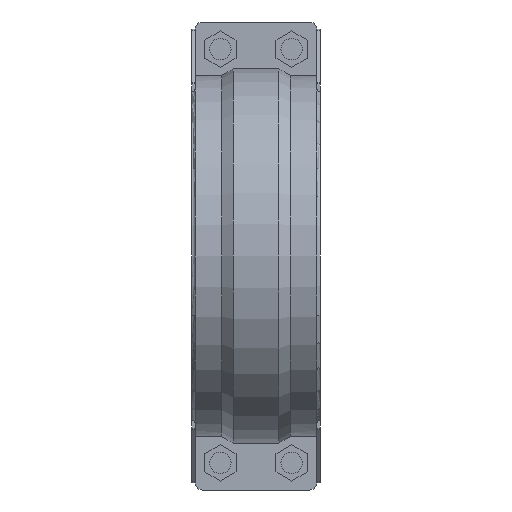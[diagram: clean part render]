
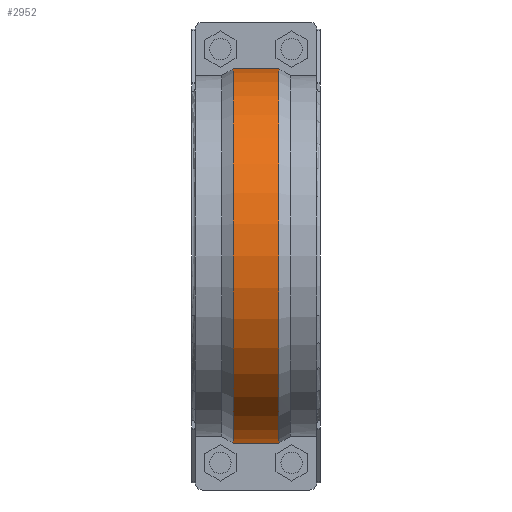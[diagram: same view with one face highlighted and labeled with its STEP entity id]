
A CAD part, front view. The second image highlights one B-rep face of the part: STEP entity #2952.
In plain terms, the highlighted cylindrical face has radius 166.521 mm (diameter 333.042 mm), a partial arc.
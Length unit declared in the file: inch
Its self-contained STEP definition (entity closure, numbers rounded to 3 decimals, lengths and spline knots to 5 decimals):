
#341=FACE_OUTER_BOUND('',#515,.T.);
#515=EDGE_LOOP('',(#2506,#2507,#2508,#2509));
#632=LINE('',#4413,#899);
#792=LINE('',#4917,#1059);
#899=VECTOR('',#3534,0.3937);
#1059=VECTOR('',#3972,0.3937);
#1121=CIRCLE('',#3119,6.55594);
#1155=CIRCLE('',#3218,6.55594);
#1269=VERTEX_POINT('',#4408);
#1270=VERTEX_POINT('',#4412);
#1315=VERTEX_POINT('',#4597);
#1414=VERTEX_POINT('',#4913);
#1571=EDGE_CURVE('',#1270,#1269,#632,.T.);
#1642=EDGE_CURVE('',#1315,#1269,#1121,.T.);
#1796=EDGE_CURVE('',#1315,#1414,#792,.T.);
#1803=EDGE_CURVE('',#1414,#1270,#1155,.T.);
#2506=ORIENTED_EDGE('',*,*,#1571,.T.);
#2507=ORIENTED_EDGE('',*,*,#1642,.F.);
#2508=ORIENTED_EDGE('',*,*,#1796,.T.);
#2509=ORIENTED_EDGE('',*,*,#1803,.T.);
#2648=CYLINDRICAL_SURFACE('',#3217,6.55594);
#2952=ADVANCED_FACE('',(#341),#2648,.T.);
#3119=AXIS2_PLACEMENT_3D('',#4601,#3669,#3670);
#3217=AXIS2_PLACEMENT_3D('',#4931,#3991,#3992);
#3218=AXIS2_PLACEMENT_3D('',#4932,#3993,#3994);
#3534=DIRECTION('',(1.,0.,0.));
#3669=DIRECTION('center_axis',(1.,0.,0.));
#3670=DIRECTION('ref_axis',(0.,0.,-1.));
#3972=DIRECTION('',(-1.,0.,0.));
#3991=DIRECTION('center_axis',(1.,0.,0.));
#3992=DIRECTION('ref_axis',(0.,-1.,0.));
#3993=DIRECTION('center_axis',(1.,0.,0.));
#3994=DIRECTION('ref_axis',(0.,0.,-1.));
#4408=CARTESIAN_POINT('',(0.8,-0.1875,-6.55326));
#4412=CARTESIAN_POINT('',(-0.8,-0.1875,-6.55326));
#4413=CARTESIAN_POINT('',(0.4,-0.1875,-6.55326));
#4597=CARTESIAN_POINT('',(0.8,-0.1875,6.55326));
#4601=CARTESIAN_POINT('Origin',(0.8,0.,0.));
#4913=CARTESIAN_POINT('',(-0.8,-0.1875,6.55326));
#4917=CARTESIAN_POINT('',(0.4,-0.1875,6.55326));
#4931=CARTESIAN_POINT('Origin',(0.4,0.,0.));
#4932=CARTESIAN_POINT('Origin',(-0.8,0.,0.));
